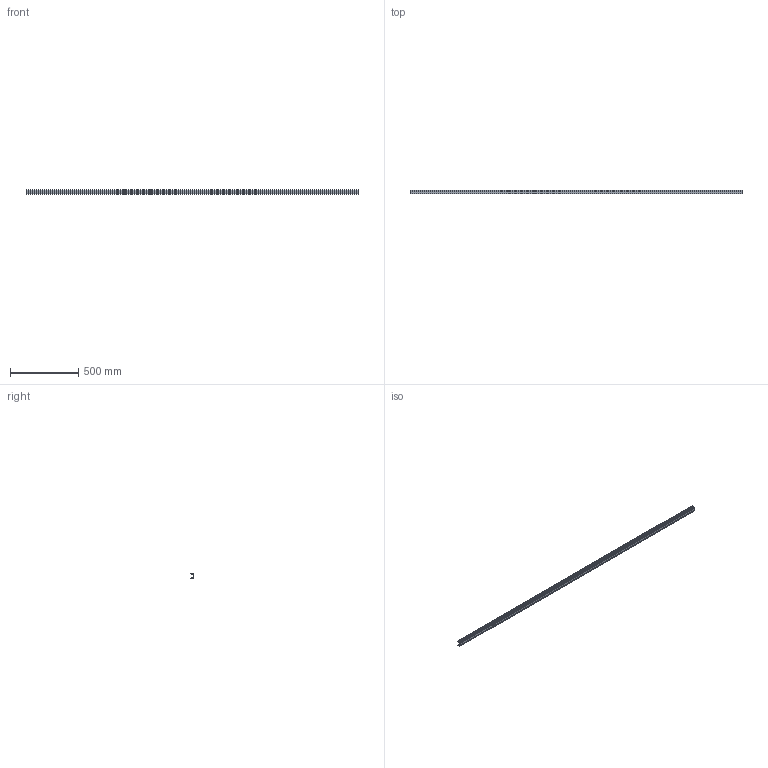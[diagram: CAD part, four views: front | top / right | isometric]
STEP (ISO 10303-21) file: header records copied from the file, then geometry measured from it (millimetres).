
FILE_DESCRIPTION( ( 'STEP AP203' ), '1' );
FILE_NAME( 'C:/Temp/Ganter_Step_05_03_2020/data/3_8/gn_646_3/Carrier profile GN 646.3-2430-A (15).stp', '2020-03-12T15:24:23', ( 'License CC BY-ND 4.0' ), ( 'CADENAS' ), ' ', 'PARTsolutions', ' ' );
FILE_SCHEMA( ( 'CONFIG_CONTROL_DESIGN' ) );
Length unit declared in the file: millimetre
Products named in the file (1): _Carrier profile GN 646.3-2430-A (15)
Bounding box: 2430 x 26.5 x 36 mm (x, y, z)
Volume: 408089.1 mm3; surface area: 510387.7 mm2
Topology: 1 solids, 1 shells, 112 faces, 330 edges, 220 vertices
Faces by surface type: plane 70, cylinder 42
Entity records: 3782 total; most frequent: CARTESIAN_POINT 663, ORIENTED_EDGE 660, DIRECTION 640, EDGE_CURVE 330, LINE 246, VECTOR 246, VERTEX_POINT 220, AXIS2_PLACEMENT_3D 197
